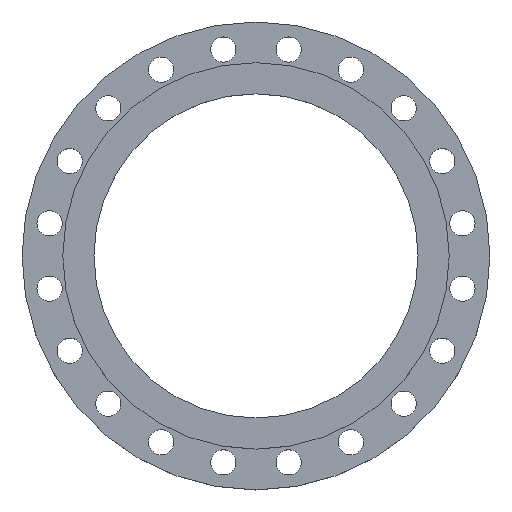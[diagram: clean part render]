
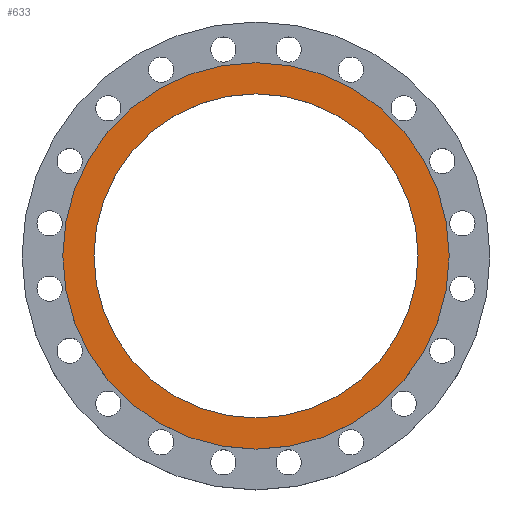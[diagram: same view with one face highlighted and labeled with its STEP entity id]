
A CAD part, top view. The second image highlights one B-rep face of the part: STEP entity #633.
In plain terms, the highlighted planar face has unit normal (0, 0, 1).
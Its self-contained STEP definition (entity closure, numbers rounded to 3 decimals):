
#179 = CIRCLE ( 'NONE', #180, 367.5 ) ;
#180 = AXIS2_PLACEMENT_3D ( 'NONE', #826, #824, #821 ) ;
#193 = EDGE_CURVE ( 'NONE', #974, #1645, #179, .T. ) ;
#309 = EDGE_CURVE ( 'NONE', #1529, #1800, #1158, .T. ) ;
#347 = CARTESIAN_POINT ( 'NONE',  ( 308.25, 0., 54. ) ) ;
#366 = CARTESIAN_POINT ( 'NONE',  ( 367.5, 0., 54. ) ) ;
#458 = AXIS2_PLACEMENT_3D ( 'NONE', #1631, #1630, #1627 ) ;
#587 = DIRECTION ( 'NONE',  ( -1., 0., 0. ) ) ;
#589 = DIRECTION ( 'NONE',  ( 0., 0., -1. ) ) ;
#590 = CARTESIAN_POINT ( 'NONE',  ( 308.25, 0., 54. ) ) ;
#591 = PLANE ( 'NONE',  #603 ) ;
#592 = FACE_BOUND ( 'NONE', #1590, .T. ) ;
#593 = FACE_OUTER_BOUND ( 'NONE', #1810, .T. ) ;
#603 = AXIS2_PLACEMENT_3D ( 'NONE', #590, #589, #587 ) ;
#633 = ADVANCED_FACE ( 'NONE', ( #593, #592 ), #591, .F. ) ;
#734 = CARTESIAN_POINT ( 'NONE',  ( 0., 0., 54. ) ) ;
#767 = DIRECTION ( 'NONE',  ( -1., 0., 0. ) ) ;
#768 = DIRECTION ( 'NONE',  ( 0., 0., -1. ) ) ;
#770 = CARTESIAN_POINT ( 'NONE',  ( 0., 0., 54. ) ) ;
#796 = CIRCLE ( 'NONE', #458, 308.25 ) ;
#821 = DIRECTION ( 'NONE',  ( -1., 0., 0. ) ) ;
#824 = DIRECTION ( 'NONE',  ( 0., 0., -1. ) ) ;
#826 = CARTESIAN_POINT ( 'NONE',  ( 0., 0., 54. ) ) ;
#967 = AXIS2_PLACEMENT_3D ( 'NONE', #734, #1917, #1914 ) ;
#974 = VERTEX_POINT ( 'NONE', #366 ) ;
#985 = CIRCLE ( 'NONE', #967, 367.5 ) ;
#1031 = ORIENTED_EDGE ( 'NONE', *, *, #1847, .T. ) ;
#1034 = ORIENTED_EDGE ( 'NONE', *, *, #309, .T. ) ;
#1038 = ORIENTED_EDGE ( 'NONE', *, *, #193, .F. ) ;
#1041 = ORIENTED_EDGE ( 'NONE', *, *, #1461, .F. ) ;
#1158 = CIRCLE ( 'NONE', #1159, 308.25 ) ;
#1159 = AXIS2_PLACEMENT_3D ( 'NONE', #770, #768, #767 ) ;
#1234 = CARTESIAN_POINT ( 'NONE',  ( -367.5, 0., 54. ) ) ;
#1461 = EDGE_CURVE ( 'NONE', #1645, #974, #985, .T. ) ;
#1529 = VERTEX_POINT ( 'NONE', #1823 ) ;
#1590 = EDGE_LOOP ( 'NONE', ( #1034, #1031 ) ) ;
#1627 = DIRECTION ( 'NONE',  ( -1., 0., 0. ) ) ;
#1630 = DIRECTION ( 'NONE',  ( 0., 0., -1. ) ) ;
#1631 = CARTESIAN_POINT ( 'NONE',  ( 0., 0., 54. ) ) ;
#1645 = VERTEX_POINT ( 'NONE', #1234 ) ;
#1800 = VERTEX_POINT ( 'NONE', #347 ) ;
#1810 = EDGE_LOOP ( 'NONE', ( #1041, #1038 ) ) ;
#1823 = CARTESIAN_POINT ( 'NONE',  ( -308.25, 0., 54. ) ) ;
#1847 = EDGE_CURVE ( 'NONE', #1800, #1529, #796, .T. ) ;
#1914 = DIRECTION ( 'NONE',  ( -1., 0., 0. ) ) ;
#1917 = DIRECTION ( 'NONE',  ( 0., 0., -1. ) ) ;
